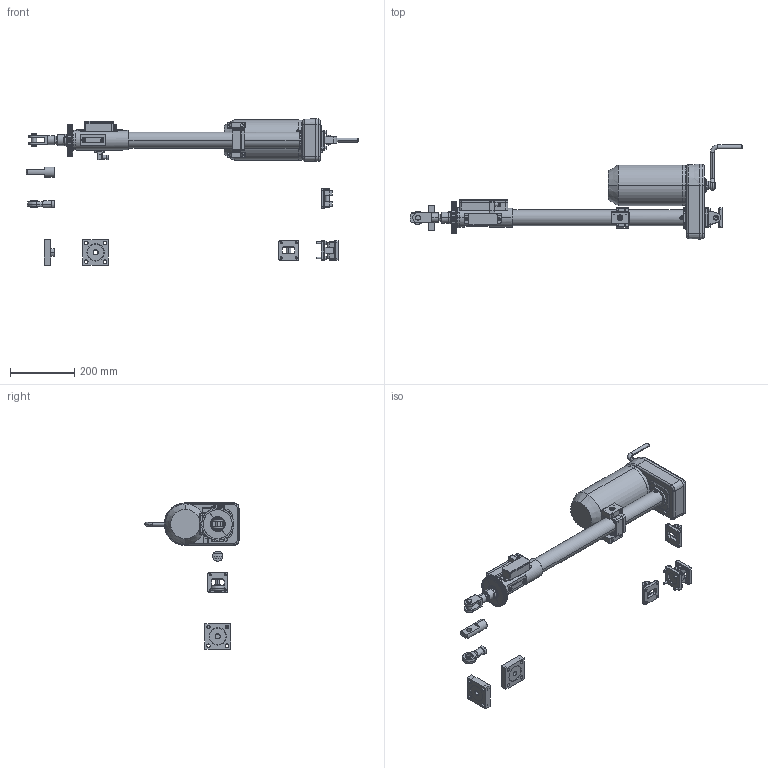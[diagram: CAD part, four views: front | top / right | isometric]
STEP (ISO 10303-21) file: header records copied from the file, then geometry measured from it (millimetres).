
FILE_DESCRIPTION (( 'STEP AP203' ), '1' );
FILE_NAME ('旆1 500.STEP', '2016-12-15T06:45:33', ( '' ), ( '' ), 'SwSTEP 2.0', 'SolidWorks 2012', '' );
FILE_SCHEMA (( 'CONFIG_CONTROL_DESIGN' ));
Length unit declared in the file: millimetre
Products named in the file (21): 旆1 500; ﾍ瑕; 秮鶋趌500; 憵儴樇罻; ãàéêà äâîéíàÿ; 濱螳､ 500; 苂; Âòóëêà ñ ÄÂ; 笭; 抌暊; 俵; 眧; 畟; 眐; Ãîôð ñ1 200; 邴; ÍÔ_Œ16å1.5; îñü ôëàíöà_Œ16å1.5; 鐏鳧氀 縺膰翴籦鴀趌80; 迕_063; 迍_TI D50
Assembly tree (21 placements, depth 3):
  旆1 500
    迍_TI D50
    迕_063
    ÍÔ_Œ16å1.5
      鐏鳧氀 縺膰翴籦鴀趌80
      îñü ôëàíöà_Œ16å1.5
    邴
    Ãîôð ñ1 200
    眐
    畟  x2
    眧
    俵
    抌暊
    笭
    Âòóëêà ñ ÄÂ
    苂
    秮鶋趌500
      濱螳､ 500
      ãàéêà äâîéíàÿ
      憵儴樇罻
    ﾍ瑕
Bounding box: 1035 x 293.4 x 456.4 mm (x, y, z)
Volume: 655025.7 mm3; surface area: 911715.1 mm2
Topology: 10 solids, 150 shells, 2100 faces, 5667 edges, 3827 vertices
Faces by surface type: cylinder 880, plane 793, cone 232, torus 132, bspline 42, sphere 21
Entity records: 67158 total; most frequent: CARTESIAN_POINT 15204, DIRECTION 11164, ORIENTED_EDGE 9276, EDGE_CURVE 5237, AXIS2_PLACEMENT_3D 4466, VERTEX_POINT 3552, CIRCLE 2525, EDGE_LOOP 2330
